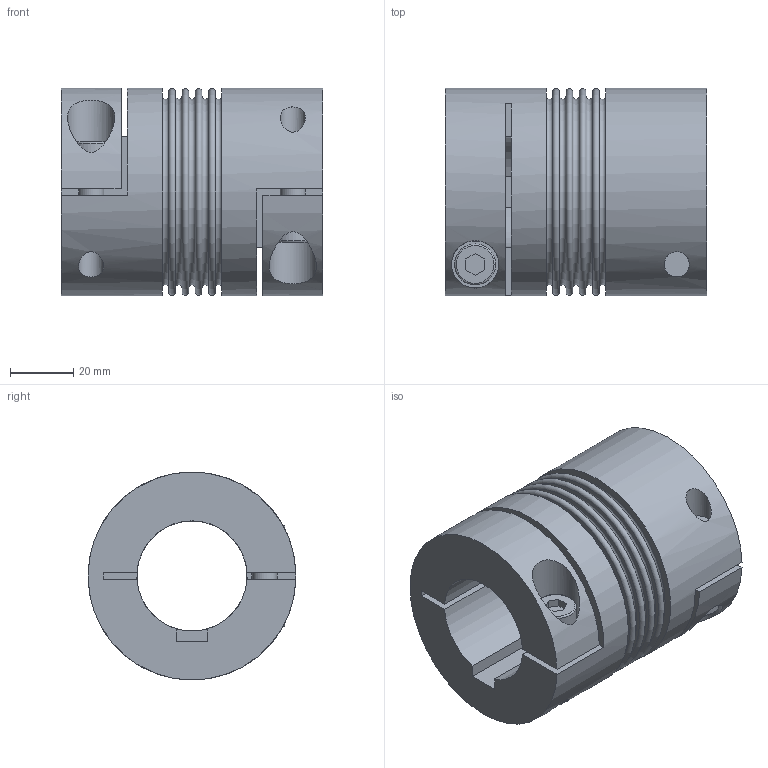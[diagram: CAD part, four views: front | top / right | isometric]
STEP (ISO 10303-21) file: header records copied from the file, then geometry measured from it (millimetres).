
FILE_DESCRIPTION(/* description */ ('STEP AP203'),/* implementation_level */ '2;1');
FILE_NAME(/* name */ 'C:\Diequa Files\DieQua Coupling\Website Step Files\BC.60.83.#.#.stp',/* time_stamp */ '2020-02-17T09:46:07-06:00',/* author */ ('DiequaCAD'),/* organization */ (''),/* preprocessor_version */ 'ST-DEVELOPER v18',/* originating_system */ 'Autodesk Inventor 2020',/* authorisation */ ' ');
FILE_SCHEMA (('AUTOMOTIVE_DESIGN { 1 0 10303 214 3 1 1 }'));
Length unit declared in the file: millimetre
Products named in the file (1): BC.60.83.#.#
Bounding box: 83 x 66 x 66 mm (x, y, z)
Volume: 152066.6 mm3; surface area: 48922.8 mm2
Topology: 1 solids, 1 shells, 80 faces, 204 edges, 142 vertices
Faces by surface type: plane 54, cylinder 15, torus 11
Full cylindrical faces by diameter (mm): 8 x4, 13 x2, 15 x2, 56 x1, 66 x2
Entity records: 2686 total; most frequent: CARTESIAN_POINT 592, DIRECTION 443, ORIENTED_EDGE 408, EDGE_CURVE 204, AXIS2_PLACEMENT_3D 167, VERTEX_POINT 142, LINE 109, VECTOR 109
